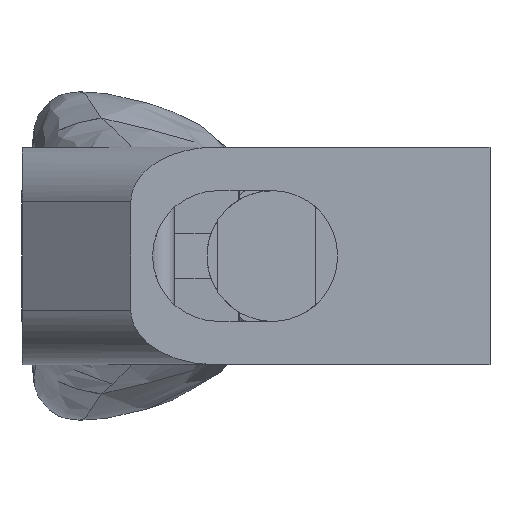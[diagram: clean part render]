
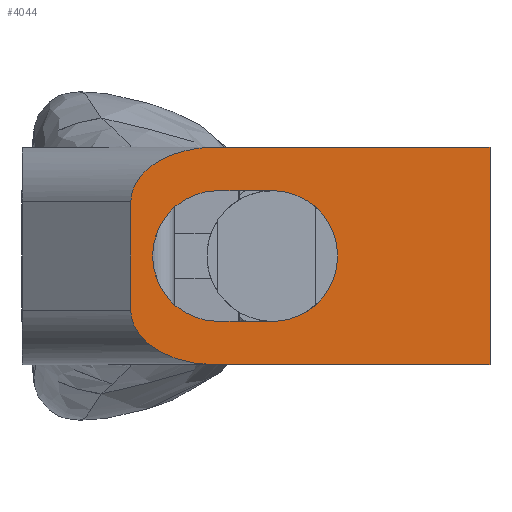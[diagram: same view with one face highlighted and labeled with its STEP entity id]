
A CAD part, left-side view. The second image highlights one B-rep face of the part: STEP entity #4044.
In plain terms, the highlighted planar face has unit normal (-1, 0, 0).
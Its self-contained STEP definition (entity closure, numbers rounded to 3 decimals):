
#127=PLANE('',#4470);
#236=ELLIPSE('',#4455,7.779,5.);
#239=ELLIPSE('',#4464,7.779,5.);
#252=FACE_BOUND('',#627,.T.);
#388=FACE_OUTER_BOUND('',#626,.T.);
#626=EDGE_LOOP('',(#2817,#2818,#2819,#2820,#2821,#2822));
#627=EDGE_LOOP('',(#2823,#2824,#2825,#2826));
#894=LINE('',#6286,#1212);
#903=LINE('',#6312,#1221);
#906=LINE('',#6325,#1224);
#907=LINE('',#6326,#1225);
#908=LINE('',#6327,#1226);
#909=LINE('',#6328,#1227);
#1212=VECTOR('',#4928,10.);
#1221=VECTOR('',#4951,10.);
#1224=VECTOR('',#4964,10.);
#1225=VECTOR('',#4965,10.);
#1226=VECTOR('',#4966,10.);
#1227=VECTOR('',#4967,10.);
#1514=CIRCLE('',#4433,6.);
#1515=CIRCLE('',#4437,6.);
#1708=VERTEX_POINT('',#6019);
#1709=VERTEX_POINT('',#6021);
#1715=VERTEX_POINT('',#6102);
#1720=VERTEX_POINT('',#6138);
#1736=VERTEX_POINT('',#6269);
#1737=VERTEX_POINT('',#6270);
#1743=VERTEX_POINT('',#6284);
#1751=VERTEX_POINT('',#6305);
#1752=VERTEX_POINT('',#6307);
#1753=VERTEX_POINT('',#6311);
#2119=EDGE_CURVE('',#1709,#1708,#1514,.T.);
#2131=EDGE_CURVE('',#1715,#1720,#1515,.T.);
#2155=EDGE_CURVE('',#1736,#1737,#236,.T.);
#2163=EDGE_CURVE('',#1736,#1743,#894,.T.);
#2174=EDGE_CURVE('',#1751,#1752,#239,.T.);
#2176=EDGE_CURVE('',#1753,#1752,#903,.T.);
#2183=EDGE_CURVE('',#1743,#1753,#906,.T.);
#2184=EDGE_CURVE('',#1737,#1751,#907,.T.);
#2185=EDGE_CURVE('',#1708,#1715,#908,.T.);
#2186=EDGE_CURVE('',#1720,#1709,#909,.T.);
#2817=ORIENTED_EDGE('',*,*,#2155,.F.);
#2818=ORIENTED_EDGE('',*,*,#2163,.T.);
#2819=ORIENTED_EDGE('',*,*,#2183,.T.);
#2820=ORIENTED_EDGE('',*,*,#2176,.T.);
#2821=ORIENTED_EDGE('',*,*,#2174,.F.);
#2822=ORIENTED_EDGE('',*,*,#2184,.F.);
#2823=ORIENTED_EDGE('',*,*,#2185,.T.);
#2824=ORIENTED_EDGE('',*,*,#2131,.T.);
#2825=ORIENTED_EDGE('',*,*,#2186,.T.);
#2826=ORIENTED_EDGE('',*,*,#2119,.T.);
#4044=ADVANCED_FACE('',(#388,#252),#127,.T.);
#4433=AXIS2_PLACEMENT_3D('',#6022,#4860,#4861);
#4437=AXIS2_PLACEMENT_3D('',#6140,#4871,#4872);
#4455=AXIS2_PLACEMENT_3D('',#6271,#4915,#4916);
#4464=AXIS2_PLACEMENT_3D('',#6308,#4946,#4947);
#4470=AXIS2_PLACEMENT_3D('',#6324,#4962,#4963);
#4860=DIRECTION('center_axis',(1.,0.,0.));
#4861=DIRECTION('ref_axis',(0.,0.,1.));
#4871=DIRECTION('center_axis',(1.,0.,0.));
#4872=DIRECTION('ref_axis',(0.,0.,-1.));
#4915=DIRECTION('center_axis',(1.,0.,0.));
#4916=DIRECTION('ref_axis',(0.,1.,0.));
#4928=DIRECTION('',(0.,-1.,0.));
#4946=DIRECTION('center_axis',(1.,0.,0.));
#4947=DIRECTION('ref_axis',(0.,1.,0.));
#4951=DIRECTION('',(0.,1.,0.));
#4962=DIRECTION('center_axis',(-1.,0.,0.));
#4963=DIRECTION('ref_axis',(0.,0.,1.));
#4964=DIRECTION('',(0.,0.,1.));
#4965=DIRECTION('',(0.,0.,1.));
#4966=DIRECTION('',(0.,-1.,0.));
#4967=DIRECTION('',(0.,1.,0.));
#6019=CARTESIAN_POINT('',(-7.77,26.135,16.));
#6021=CARTESIAN_POINT('',(-7.77,26.135,4.));
#6022=CARTESIAN_POINT('Origin',(-7.77,26.135,10.));
#6102=CARTESIAN_POINT('',(-7.77,21.135,16.));
#6138=CARTESIAN_POINT('',(-7.77,21.135,4.));
#6140=CARTESIAN_POINT('Origin',(-7.77,21.135,10.));
#6269=CARTESIAN_POINT('',(-7.77,26.356,0.));
#6270=CARTESIAN_POINT('',(-7.77,34.135,5.));
#6271=CARTESIAN_POINT('Origin',(-7.77,26.356,5.));
#6284=CARTESIAN_POINT('',(-7.77,1.135,0.));
#6286=CARTESIAN_POINT('',(-7.77,34.135,0.));
#6305=CARTESIAN_POINT('',(-7.77,34.135,15.));
#6307=CARTESIAN_POINT('',(-7.77,26.356,20.));
#6308=CARTESIAN_POINT('Origin',(-7.77,26.356,15.));
#6311=CARTESIAN_POINT('',(-7.77,1.135,20.));
#6312=CARTESIAN_POINT('',(-7.77,34.135,20.));
#6324=CARTESIAN_POINT('Origin',(-7.77,1.135,0.));
#6325=CARTESIAN_POINT('',(-7.77,1.135,0.));
#6326=CARTESIAN_POINT('',(-7.77,34.135,0.));
#6327=CARTESIAN_POINT('',(-7.77,11.135,16.));
#6328=CARTESIAN_POINT('',(-7.77,13.635,4.));
